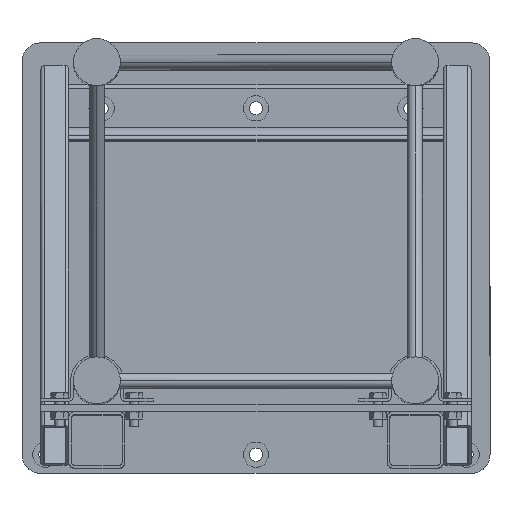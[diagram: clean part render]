
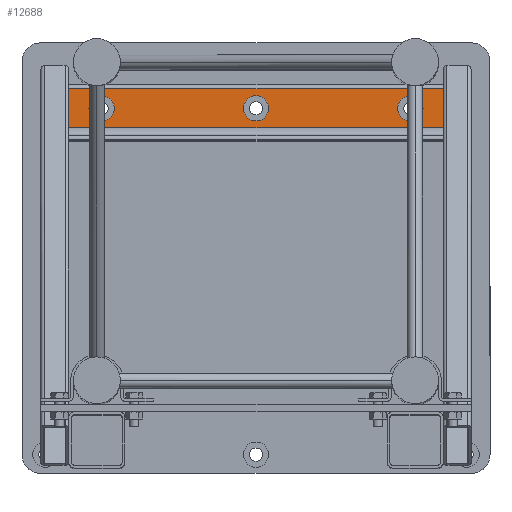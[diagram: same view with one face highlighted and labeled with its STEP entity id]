
A CAD part, top view. The second image highlights one B-rep face of the part: STEP entity #12688.
In plain terms, the highlighted planar face has unit normal (0, 0, 1) as drawn and (1, 0, 0) by its records, which use the part's own axes.
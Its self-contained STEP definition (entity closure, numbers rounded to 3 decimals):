
#2697 = CARTESIAN_POINT ( 'NONE',  ( 6., 35., -165. ) ) ;
#2701 = CARTESIAN_POINT ( 'NONE',  ( 6., 21.5, -165. ) ) ;
#2744 = CARTESIAN_POINT ( 'NONE',  ( 6., 48.5, -165. ) ) ;
#2748 = DIRECTION ( 'NONE',  ( 0., 1., 0. ) ) ;
#2749 = DIRECTION ( 'NONE',  ( -1., 0., 0. ) ) ;
#2750 = AXIS2_PLACEMENT_3D ( 'NONE', #2697, #2749, #2748 ) ;
#2751 = CIRCLE ( 'NONE', #2750, 13.5 ) ;
#7754 = VERTEX_POINT ( 'NONE', #2701 ) ;
#7763 = EDGE_CURVE ( 'NONE', #7767, #7754, #2751, .T. ) ;
#7767 = VERTEX_POINT ( 'NONE', #2744 ) ;
#9350 = DIRECTION ( 'NONE',  ( 0., 0., 1. ) ) ;
#9351 = VECTOR ( 'NONE', #9350, 1000. ) ;
#9352 = CARTESIAN_POINT ( 'NONE',  ( 6., 14., -200. ) ) ;
#9353 = LINE ( 'NONE', #9352, #9351 ) ;
#9354 = CARTESIAN_POINT ( 'NONE',  ( 6., 56., 200. ) ) ;
#9383 = AXIS2_PLACEMENT_3D ( 'NONE', #9450, #9448, #9447 ) ;
#9384 = PLANE ( 'NONE',  #9383 ) ;
#9385 = FACE_BOUND ( 'NONE', #12680, .T. ) ;
#9386 = FACE_BOUND ( 'NONE', #12710, .T. ) ;
#9388 = FACE_OUTER_BOUND ( 'NONE', #12679, .T. ) ;
#9389 = FACE_BOUND ( 'NONE', #12653, .T. ) ;
#9390 = CARTESIAN_POINT ( 'NONE',  ( 6., 21.5, 0. ) ) ;
#9391 = CARTESIAN_POINT ( 'NONE',  ( 6., 48.5, 0. ) ) ;
#9392 = DIRECTION ( 'NONE',  ( 0., 1., 0. ) ) ;
#9393 = DIRECTION ( 'NONE',  ( -1., 0., 0. ) ) ;
#9394 = CARTESIAN_POINT ( 'NONE',  ( 6., 35., 0. ) ) ;
#9396 = AXIS2_PLACEMENT_3D ( 'NONE', #9394, #9393, #9392 ) ;
#9397 = CIRCLE ( 'NONE', #9396, 13.5 ) ;
#9404 = DIRECTION ( 'NONE',  ( 0., 1., 0. ) ) ;
#9405 = VECTOR ( 'NONE', #9404, 1000. ) ;
#9406 = CARTESIAN_POINT ( 'NONE',  ( 6., 14., 200. ) ) ;
#9407 = DIRECTION ( 'NONE',  ( 0., 1., 0. ) ) ;
#9408 = DIRECTION ( 'NONE',  ( -1., 0., 0. ) ) ;
#9409 = CARTESIAN_POINT ( 'NONE',  ( 6., 35., 0. ) ) ;
#9410 = AXIS2_PLACEMENT_3D ( 'NONE', #9409, #9408, #9407 ) ;
#9411 = CIRCLE ( 'NONE', #9410, 13.5 ) ;
#9412 = LINE ( 'NONE', #9406, #9405 ) ;
#9416 = CARTESIAN_POINT ( 'NONE',  ( 6., 14., 200. ) ) ;
#9420 = CARTESIAN_POINT ( 'NONE',  ( 6., 48.5, 165. ) ) ;
#9421 = DIRECTION ( 'NONE',  ( 0., 1., 0. ) ) ;
#9422 = DIRECTION ( 'NONE',  ( -1., 0., 0. ) ) ;
#9423 = CARTESIAN_POINT ( 'NONE',  ( 6., 35., 165. ) ) ;
#9424 = AXIS2_PLACEMENT_3D ( 'NONE', #9423, #9422, #9421 ) ;
#9425 = CIRCLE ( 'NONE', #9424, 13.5 ) ;
#9447 = DIRECTION ( 'NONE',  ( 0., 1., 0. ) ) ;
#9448 = DIRECTION ( 'NONE',  ( 1., 0., 0. ) ) ;
#9450 = CARTESIAN_POINT ( 'NONE',  ( 6., 14., -200. ) ) ;
#9452 = DIRECTION ( 'NONE',  ( 0., 1., 0. ) ) ;
#9453 = DIRECTION ( 'NONE',  ( -1., 0., 0. ) ) ;
#9454 = CARTESIAN_POINT ( 'NONE',  ( 6., 35., -165. ) ) ;
#9455 = AXIS2_PLACEMENT_3D ( 'NONE', #9454, #9453, #9452 ) ;
#9456 = CIRCLE ( 'NONE', #9455, 13.5 ) ;
#9465 = CARTESIAN_POINT ( 'NONE',  ( 6., 14., -200. ) ) ;
#9474 = CARTESIAN_POINT ( 'NONE',  ( 6., 56., -200. ) ) ;
#9475 = DIRECTION ( 'NONE',  ( 0., 1., 0. ) ) ;
#9476 = VECTOR ( 'NONE', #9475, 1000. ) ;
#9478 = CARTESIAN_POINT ( 'NONE',  ( 6., 14., -200. ) ) ;
#9479 = LINE ( 'NONE', #9478, #9476 ) ;
#9481 = DIRECTION ( 'NONE',  ( 0., 0., 1. ) ) ;
#9482 = VECTOR ( 'NONE', #9481, 1000. ) ;
#9483 = CARTESIAN_POINT ( 'NONE',  ( 6., 56., -200. ) ) ;
#9484 = LINE ( 'NONE', #9483, #9482 ) ;
#9485 = CARTESIAN_POINT ( 'NONE',  ( 6., 21.5, 165. ) ) ;
#9487 = DIRECTION ( 'NONE',  ( 0., 1., 0. ) ) ;
#9488 = DIRECTION ( 'NONE',  ( -1., 0., 0. ) ) ;
#9490 = CARTESIAN_POINT ( 'NONE',  ( 6., 35., 165. ) ) ;
#9491 = AXIS2_PLACEMENT_3D ( 'NONE', #9490, #9488, #9487 ) ;
#9492 = CIRCLE ( 'NONE', #9491, 13.5 ) ;
#12653 = EDGE_LOOP ( 'NONE', ( #12683, #12677 ) ) ;
#12668 = VERTEX_POINT ( 'NONE', #9354 ) ;
#12669 = ORIENTED_EDGE ( 'NONE', *, *, #12670, .F. ) ;
#12670 = EDGE_CURVE ( 'NONE', #12713, #12674, #9353, .T. ) ;
#12674 = VERTEX_POINT ( 'NONE', #9416 ) ;
#12675 = ORIENTED_EDGE ( 'NONE', *, *, #12678, .F. ) ;
#12676 = EDGE_CURVE ( 'NONE', #12687, #12686, #9411, .T. ) ;
#12677 = ORIENTED_EDGE ( 'NONE', *, *, #12676, .T. ) ;
#12678 = EDGE_CURVE ( 'NONE', #12674, #12668, #9412, .T. ) ;
#12679 = EDGE_LOOP ( 'NONE', ( #12675, #12669, #12711, #12706 ) ) ;
#12680 = EDGE_LOOP ( 'NONE', ( #12685, #12718 ) ) ;
#12682 = ORIENTED_EDGE ( 'NONE', *, *, #12704, .T. ) ;
#12683 = ORIENTED_EDGE ( 'NONE', *, *, #12684, .T. ) ;
#12684 = EDGE_CURVE ( 'NONE', #12686, #12687, #9397, .T. ) ;
#12685 = ORIENTED_EDGE ( 'NONE', *, *, #7763, .T. ) ;
#12686 = VERTEX_POINT ( 'NONE', #9391 ) ;
#12687 = VERTEX_POINT ( 'NONE', #9390 ) ;
#12688 = ADVANCED_FACE ( 'NONE', ( #9389, #9388, #9386, #9385 ), #9384, .T. ) ;
#12701 = EDGE_CURVE ( 'NONE', #12705, #12703, #9425, .T. ) ;
#12702 = ORIENTED_EDGE ( 'NONE', *, *, #12701, .T. ) ;
#12703 = VERTEX_POINT ( 'NONE', #9420 ) ;
#12704 = EDGE_CURVE ( 'NONE', #12703, #12705, #9492, .T. ) ;
#12705 = VERTEX_POINT ( 'NONE', #9485 ) ;
#12706 = ORIENTED_EDGE ( 'NONE', *, *, #12707, .T. ) ;
#12707 = EDGE_CURVE ( 'NONE', #12709, #12668, #9484, .T. ) ;
#12708 = EDGE_CURVE ( 'NONE', #12713, #12709, #9479, .T. ) ;
#12709 = VERTEX_POINT ( 'NONE', #9474 ) ;
#12710 = EDGE_LOOP ( 'NONE', ( #12682, #12702 ) ) ;
#12711 = ORIENTED_EDGE ( 'NONE', *, *, #12708, .T. ) ;
#12713 = VERTEX_POINT ( 'NONE', #9465 ) ;
#12718 = ORIENTED_EDGE ( 'NONE', *, *, #12720, .T. ) ;
#12720 = EDGE_CURVE ( 'NONE', #7754, #7767, #9456, .T. ) ;
